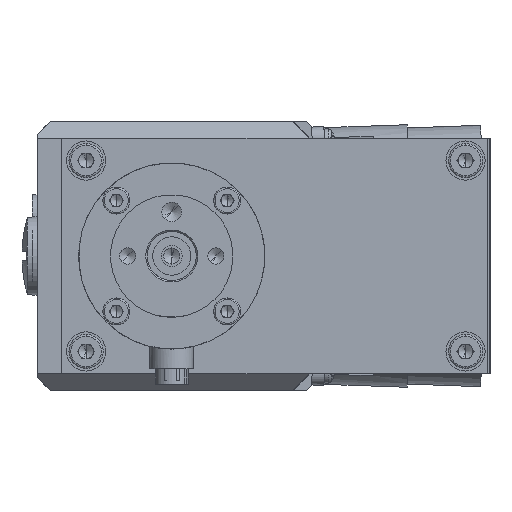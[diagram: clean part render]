
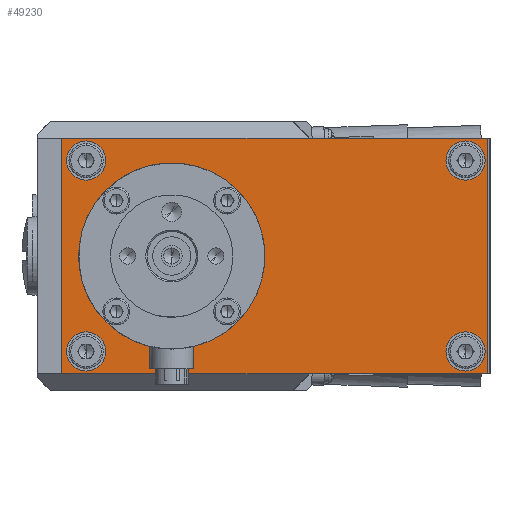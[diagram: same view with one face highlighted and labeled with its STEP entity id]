
A CAD part, left-side view. The second image highlights one B-rep face of the part: STEP entity #49230.
In plain terms, the highlighted planar face has unit normal (-1, 0, 0).
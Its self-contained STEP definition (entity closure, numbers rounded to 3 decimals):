
#179 = EDGE_LOOP ( 'NONE', ( #54117, #38696 ) ) ;
#458 = EDGE_CURVE ( 'NONE', #23789, #6405, #34103, .T. ) ;
#617 = AXIS2_PLACEMENT_3D ( 'NONE', #60846, #50736, #25692 ) ;
#1269 = FACE_BOUND ( 'NONE', #11105, .T. ) ;
#2064 = CIRCLE ( 'NONE', #54418, 15.5 ) ;
#2161 = DIRECTION ( 'NONE',  ( -1., 0., 0. ) ) ;
#2386 = DIRECTION ( 'NONE',  ( 0., 0., -1. ) ) ;
#2468 = VERTEX_POINT ( 'NONE', #14809 ) ;
#3591 = DIRECTION ( 'NONE',  ( -1., 0., 0. ) ) ;
#3606 = ORIENTED_EDGE ( 'NONE', *, *, #3820, .F. ) ;
#3820 = EDGE_CURVE ( 'NONE', #54776, #10109, #48192, .T. ) ;
#4718 = EDGE_CURVE ( 'NONE', #31555, #2468, #52486, .T. ) ;
#4978 = CARTESIAN_POINT ( 'NONE',  ( -106.001, -23.121, 41.182 ) ) ;
#5358 = DIRECTION ( 'NONE',  ( 1., 0., 0. ) ) ;
#5660 = EDGE_CURVE ( 'NONE', #16463, #25757, #46118, .T. ) ;
#5732 = DIRECTION ( 'NONE',  ( 0., 0., 1. ) ) ;
#5951 = DIRECTION ( 'NONE',  ( 0., 0., 1. ) ) ;
#6405 = VERTEX_POINT ( 'NONE', #63758 ) ;
#6646 = EDGE_CURVE ( 'NONE', #2468, #16463, #31073, .T. ) ;
#6798 = DIRECTION ( 'NONE',  ( 0., -1., 0. ) ) ;
#7396 = CARTESIAN_POINT ( 'NONE',  ( -106.001, 54.379, 41.182 ) ) ;
#7408 = VERTEX_POINT ( 'NONE', #60523 ) ;
#8004 = DIRECTION ( 'NONE',  ( -1., 0., 0. ) ) ;
#9299 = DIRECTION ( 'NONE',  ( 0., 0., 1. ) ) ;
#10109 = VERTEX_POINT ( 'NONE', #43185 ) ;
#10740 = CARTESIAN_POINT ( 'NONE',  ( -106.001, 36.879, 21.682 ) ) ;
#10759 = CARTESIAN_POINT ( 'NONE',  ( -106.001, 54.379, 41.182 ) ) ;
#11105 = EDGE_LOOP ( 'NONE', ( #50027, #16979 ) ) ;
#11471 = EDGE_CURVE ( 'NONE', #10109, #54776, #47510, .T. ) ;
#11497 = ORIENTED_EDGE ( 'NONE', *, *, #11471, .F. ) ;
#11557 = EDGE_CURVE ( 'NONE', #36056, #53243, #2064, .T. ) ;
#11691 = ORIENTED_EDGE ( 'NONE', *, *, #57927, .F. ) ;
#11967 = VERTEX_POINT ( 'NONE', #34811 ) ;
#12189 = CARTESIAN_POINT ( 'NONE',  ( -106.001, 59.379, -2.318 ) ) ;
#13108 = AXIS2_PLACEMENT_3D ( 'NONE', #10759, #30469, #5732 ) ;
#14140 = CIRCLE ( 'NONE', #57235, 4. ) ;
#14536 = FACE_BOUND ( 'NONE', #179, .T. ) ;
#14809 = CARTESIAN_POINT ( 'NONE',  ( -106.001, -27.621, 45.682 ) ) ;
#15607 = PLANE ( 'NONE',  #48076 ) ;
#15873 = CARTESIAN_POINT ( 'NONE',  ( -106.001, -23.121, -1.818 ) ) ;
#16380 = CARTESIAN_POINT ( 'NONE',  ( -106.001, -27.621, -2.318 ) ) ;
#16463 = VERTEX_POINT ( 'NONE', #57324 ) ;
#16979 = ORIENTED_EDGE ( 'NONE', *, *, #51330, .F. ) ;
#17602 = DIRECTION ( 'NONE',  ( 0., 0., 1. ) ) ;
#17966 = EDGE_LOOP ( 'NONE', ( #62324, #59289, #26010, #45947 ) ) ;
#18307 = CARTESIAN_POINT ( 'NONE',  ( -106.001, -23.121, 2.182 ) ) ;
#18429 = FACE_OUTER_BOUND ( 'NONE', #17966, .T. ) ;
#18463 = CARTESIAN_POINT ( 'NONE',  ( -106.001, -23.121, 41.182 ) ) ;
#19077 = CARTESIAN_POINT ( 'NONE',  ( -106.001, -23.121, 2.182 ) ) ;
#19648 = AXIS2_PLACEMENT_3D ( 'NONE', #19878, #54829, #59445 ) ;
#19878 = CARTESIAN_POINT ( 'NONE',  ( -106.001, 54.379, 2.182 ) ) ;
#20588 = CARTESIAN_POINT ( 'NONE',  ( -106.001, -27.621, -2.318 ) ) ;
#21336 = EDGE_CURVE ( 'NONE', #53243, #36056, #26539, .T. ) ;
#23324 = VECTOR ( 'NONE', #2386, 1000. ) ;
#23789 = VERTEX_POINT ( 'NONE', #38648 ) ;
#25029 = VERTEX_POINT ( 'NONE', #50191 ) ;
#25419 = AXIS2_PLACEMENT_3D ( 'NONE', #54583, #45284, #29510 ) ;
#25452 = EDGE_LOOP ( 'NONE', ( #11497, #3606 ) ) ;
#25692 = DIRECTION ( 'NONE',  ( 0., 0., 1. ) ) ;
#25757 = VERTEX_POINT ( 'NONE', #54524 ) ;
#26010 = ORIENTED_EDGE ( 'NONE', *, *, #5660, .T. ) ;
#26280 = FACE_BOUND ( 'NONE', #37628, .T. ) ;
#26539 = CIRCLE ( 'NONE', #25419, 15.5 ) ;
#28148 = VECTOR ( 'NONE', #31667, 1000. ) ;
#29510 = DIRECTION ( 'NONE',  ( 0., 0., 1. ) ) ;
#30073 = DIRECTION ( 'NONE',  ( 0., 0., -1. ) ) ;
#30469 = DIRECTION ( 'NONE',  ( -1., 0., 0. ) ) ;
#30948 = EDGE_CURVE ( 'NONE', #7408, #32682, #36447, .T. ) ;
#31073 = LINE ( 'NONE', #40866, #32668 ) ;
#31555 = VERTEX_POINT ( 'NONE', #20588 ) ;
#31667 = DIRECTION ( 'NONE',  ( 0., 0., 1. ) ) ;
#31782 = FACE_BOUND ( 'NONE', #52093, .T. ) ;
#32668 = VECTOR ( 'NONE', #56066, 1000. ) ;
#32682 = VERTEX_POINT ( 'NONE', #15873 ) ;
#33484 = DIRECTION ( 'NONE',  ( 0., 0., 1. ) ) ;
#33980 = CARTESIAN_POINT ( 'NONE',  ( -106.001, 36.879, 6.182 ) ) ;
#34103 = CIRCLE ( 'NONE', #13108, 4. ) ;
#34604 = AXIS2_PLACEMENT_3D ( 'NONE', #19077, #3591, #9299 ) ;
#34811 = CARTESIAN_POINT ( 'NONE',  ( -106.001, -23.121, 45.182 ) ) ;
#36056 = VERTEX_POINT ( 'NONE', #33980 ) ;
#36447 = CIRCLE ( 'NONE', #37757, 4. ) ;
#37189 = CIRCLE ( 'NONE', #34604, 4. ) ;
#37417 = DIRECTION ( 'NONE',  ( 0., 0., 1. ) ) ;
#37628 = EDGE_LOOP ( 'NONE', ( #51146, #11691 ) ) ;
#37757 = AXIS2_PLACEMENT_3D ( 'NONE', #18307, #44408, #33484 ) ;
#38648 = CARTESIAN_POINT ( 'NONE',  ( -106.001, 54.379, 45.182 ) ) ;
#38696 = ORIENTED_EDGE ( 'NONE', *, *, #39925, .F. ) ;
#39925 = EDGE_CURVE ( 'NONE', #6405, #23789, #14140, .T. ) ;
#40166 = CARTESIAN_POINT ( 'NONE',  ( -106.001, -27.621, -2.318 ) ) ;
#40866 = CARTESIAN_POINT ( 'NONE',  ( -106.001, 59.379, 45.682 ) ) ;
#43185 = CARTESIAN_POINT ( 'NONE',  ( -106.001, 54.379, 6.182 ) ) ;
#43905 = ORIENTED_EDGE ( 'NONE', *, *, #21336, .F. ) ;
#44408 = DIRECTION ( 'NONE',  ( -1., 0., 0. ) ) ;
#45072 = DIRECTION ( 'NONE',  ( -1., 0., 0. ) ) ;
#45284 = DIRECTION ( 'NONE',  ( -1., 0., 0. ) ) ;
#45367 = DIRECTION ( 'NONE',  ( -1., 0., 0. ) ) ;
#45947 = ORIENTED_EDGE ( 'NONE', *, *, #56187, .T. ) ;
#46118 = LINE ( 'NONE', #12189, #23324 ) ;
#47283 = CARTESIAN_POINT ( 'NONE',  ( -106.001, 54.379, -1.818 ) ) ;
#47375 = AXIS2_PLACEMENT_3D ( 'NONE', #18463, #8004, #17602 ) ;
#47510 = CIRCLE ( 'NONE', #617, 4. ) ;
#47923 = CIRCLE ( 'NONE', #47375, 4. ) ;
#48076 = AXIS2_PLACEMENT_3D ( 'NONE', #40166, #5358, #30073 ) ;
#48192 = CIRCLE ( 'NONE', #19648, 4. ) ;
#49230 = ADVANCED_FACE ( 'NONE', ( #49848, #26280, #14536, #1269, #31782, #18429 ), #15607, .F. ) ;
#49848 = FACE_BOUND ( 'NONE', #25452, .T. ) ;
#49951 = VECTOR ( 'NONE', #6798, 1000. ) ;
#50027 = ORIENTED_EDGE ( 'NONE', *, *, #52800, .F. ) ;
#50191 = CARTESIAN_POINT ( 'NONE',  ( -106.001, -23.121, 37.182 ) ) ;
#50363 = CARTESIAN_POINT ( 'NONE',  ( -106.001, 36.879, 37.182 ) ) ;
#50736 = DIRECTION ( 'NONE',  ( -1., 0., 0. ) ) ;
#50775 = CARTESIAN_POINT ( 'NONE',  ( -106.001, -27.621, 45.682 ) ) ;
#51146 = ORIENTED_EDGE ( 'NONE', *, *, #30948, .F. ) ;
#51330 = EDGE_CURVE ( 'NONE', #25029, #11967, #54313, .T. ) ;
#52093 = EDGE_LOOP ( 'NONE', ( #43905, #62266 ) ) ;
#52486 = LINE ( 'NONE', #50775, #28148 ) ;
#52800 = EDGE_CURVE ( 'NONE', #11967, #25029, #47923, .T. ) ;
#53243 = VERTEX_POINT ( 'NONE', #50363 ) ;
#54117 = ORIENTED_EDGE ( 'NONE', *, *, #458, .F. ) ;
#54313 = CIRCLE ( 'NONE', #58292, 4. ) ;
#54418 = AXIS2_PLACEMENT_3D ( 'NONE', #10740, #45367, #5951 ) ;
#54524 = CARTESIAN_POINT ( 'NONE',  ( -106.001, 59.379, -2.318 ) ) ;
#54583 = CARTESIAN_POINT ( 'NONE',  ( -106.001, 36.879, 21.682 ) ) ;
#54776 = VERTEX_POINT ( 'NONE', #47283 ) ;
#54829 = DIRECTION ( 'NONE',  ( -1., 0., 0. ) ) ;
#56066 = DIRECTION ( 'NONE',  ( 0., 1., 0. ) ) ;
#56187 = EDGE_CURVE ( 'NONE', #25757, #31555, #64077, .T. ) ;
#57235 = AXIS2_PLACEMENT_3D ( 'NONE', #7396, #2161, #37417 ) ;
#57324 = CARTESIAN_POINT ( 'NONE',  ( -106.001, 59.379, 45.682 ) ) ;
#57927 = EDGE_CURVE ( 'NONE', #32682, #7408, #37189, .T. ) ;
#58292 = AXIS2_PLACEMENT_3D ( 'NONE', #4978, #45072, #59609 ) ;
#59289 = ORIENTED_EDGE ( 'NONE', *, *, #6646, .T. ) ;
#59445 = DIRECTION ( 'NONE',  ( 0., 0., 1. ) ) ;
#59609 = DIRECTION ( 'NONE',  ( 0., 0., 1. ) ) ;
#60523 = CARTESIAN_POINT ( 'NONE',  ( -106.001, -23.121, 6.182 ) ) ;
#60846 = CARTESIAN_POINT ( 'NONE',  ( -106.001, 54.379, 2.182 ) ) ;
#62266 = ORIENTED_EDGE ( 'NONE', *, *, #11557, .F. ) ;
#62324 = ORIENTED_EDGE ( 'NONE', *, *, #4718, .T. ) ;
#63758 = CARTESIAN_POINT ( 'NONE',  ( -106.001, 54.379, 37.182 ) ) ;
#64077 = LINE ( 'NONE', #16380, #49951 ) ;
